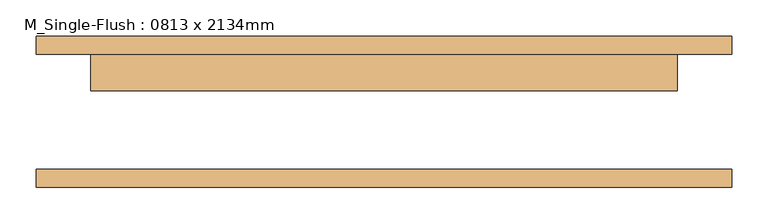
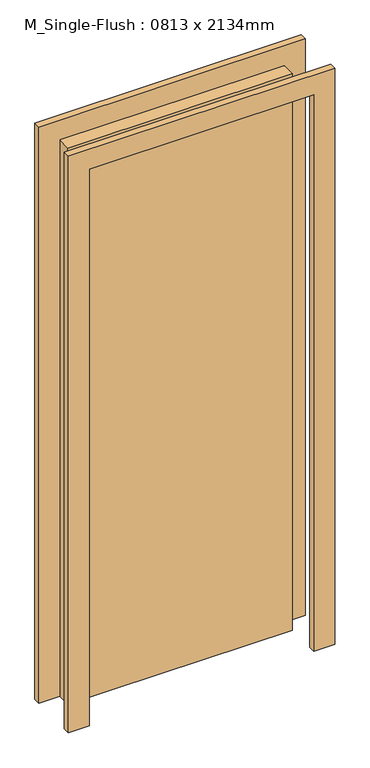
"""IFC4 building model written with IfcOpenShell, lengths in millimetres: door geometry, M_Single-Flush : 0813 x 2134mm."""

from ifc_helpers import new_model, si_unit, frame, origin, origin_with_axes, place, context, project, spatial, polyline, outline, extrude, source, transform, mapped, element, save


def m_single_flush_0813_x_2134mm_33eb9d5a(model_context):
    return source(origin(), model_context, "Body", "SweptSolid", [
        extrude(outline(polyline([(2210.0, -482.5), (0.0, -482.5), (0.0, -406.5), (2134.0, -406.5), (2134.0, 406.5), (0.0, 406.5), (0.0, 482.5), (2210.0, 482.5), (2210.0, -482.5)])), frame((0.0, 80.0, 0.0), z_axis=(0.0, 1.0, 0.0), x_axis=(0.0, 0.0, 1.0)), (0.0, 0.0, 1.0), 25.0),
        extrude(outline(polyline([(2210.0, 482.5), (2210.0, -482.5), (0.0, -482.5), (0.0, -406.5), (2134.0, -406.5), (2134.0, 406.5), (0.0, 406.5), (0.0, 482.5), (2210.0, 482.5)])), frame((0.0, -105.0, 0.0), z_axis=(0.0, 1.0, 0.0), x_axis=(0.0, 0.0, 1.0)), (0.0, 0.0, 1.0), 25.0),
        extrude(outline(polyline([(406.5, 29.0), (-406.5, 29.0), (-406.5, 80.0), (406.5, 80.0), (406.5, 29.0)])), origin_with_axes(), (0.0, 0.0, 1.0), 2134.0),
    ])


if __name__ == "__main__":
    model = new_model("IFC4")
    model_context = context("Model", 3, world=origin())
    ifc_project = project(units=[si_unit("LENGTHUNIT", "METRE", prefix="MILLI")], contexts=[model_context])
    site = spatial("IfcSite", under=ifc_project)
    building = spatial("IfcBuilding", under=site)
    placement = place(None, origin())
    m_single_flush_0813_x_2134mm_shape = m_single_flush_0813_x_2134mm_33eb9d5a(model_context)
    element("IfcDoor", 1, ObjectType="M_Single-Flush : 0813 x 2134mm", at=placement, inside=building, context=model_context, shape_type="MappedRepresentation", body=[
        mapped(m_single_flush_0813_x_2134mm_shape, transform((0.0, 0.0, 0.0), x_axis=(1.0, 0.0, 0.0), y_axis=(0.0, 1.0, 0.0), z_axis=(0.0, 0.0, 1.0))),
    ])
    save(model, "model.ifc")
